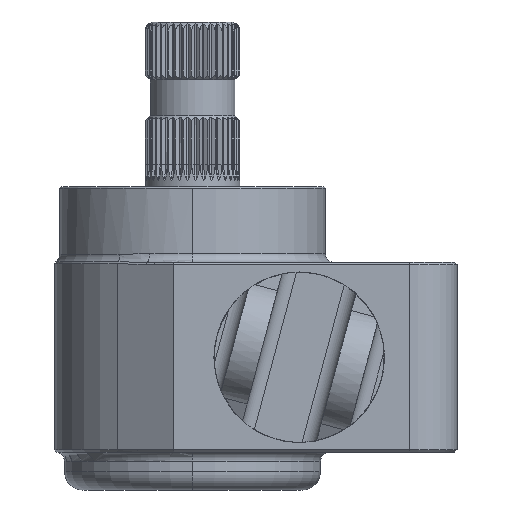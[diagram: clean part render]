
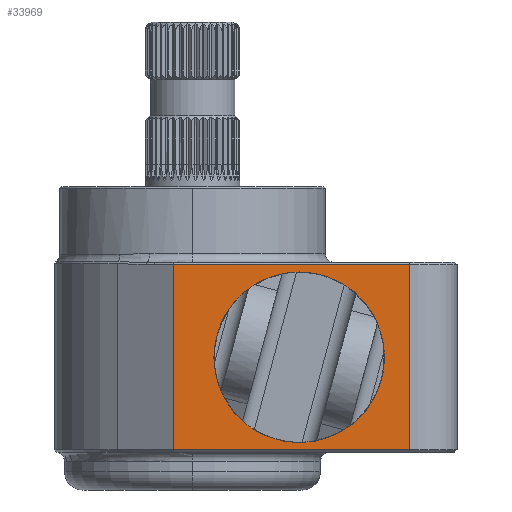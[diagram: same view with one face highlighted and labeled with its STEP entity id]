
A CAD part, left-side view. The second image highlights one B-rep face of the part: STEP entity #33969.
In plain terms, the highlighted planar face has unit normal (-1, 0, 0).
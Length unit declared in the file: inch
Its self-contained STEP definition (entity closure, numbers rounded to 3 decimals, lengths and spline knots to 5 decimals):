
#87 = EDGE_CURVE ( 'NONE', #27438, #25762, #12227, .T. ) ;
#365 = LINE ( 'NONE', #11179, #16177 ) ;
#893 = DIRECTION ( 'NONE',  ( 0., 1., 0. ) ) ;
#1001 = ORIENTED_EDGE ( 'NONE', *, *, #26330, .F. ) ;
#2152 = CARTESIAN_POINT ( 'NONE',  ( -1., -0.70375, 0.625 ) ) ;
#4114 = ORIENTED_EDGE ( 'NONE', *, *, #16411, .F. ) ;
#5031 = EDGE_CURVE ( 'NONE', #28939, #32936, #13499, .T. ) ;
#5422 = FACE_BOUND ( 'NONE', #32364, .T. ) ;
#7713 = LINE ( 'NONE', #16414, #27472 ) ;
#7803 = VECTOR ( 'NONE', #26574, 39.37008 ) ;
#7943 = CARTESIAN_POINT ( 'NONE',  ( -1., 0.125, 1.25 ) ) ;
#8041 = FACE_OUTER_BOUND ( 'NONE', #22828, .T. ) ;
#8155 = CARTESIAN_POINT ( 'NONE',  ( -1., -1.43125, 1.235 ) ) ;
#8173 = CARTESIAN_POINT ( 'NONE',  ( -1., 0.125, 0.015 ) ) ;
#8703 = ORIENTED_EDGE ( 'NONE', *, *, #87, .F. ) ;
#9806 = DIRECTION ( 'NONE',  ( 0., 0., -1. ) ) ;
#10097 = DIRECTION ( 'NONE',  ( -1., 0., 0. ) ) ;
#11179 = CARTESIAN_POINT ( 'NONE',  ( -1., 0.125, 1.235 ) ) ;
#11350 = DIRECTION ( 'NONE',  ( 1., 0., 0. ) ) ;
#12227 = CIRCLE ( 'NONE', #27792, 0.5625 ) ;
#12244 = DIRECTION ( 'NONE',  ( -1., 0., 0. ) ) ;
#13440 = PLANE ( 'NONE',  #20636 ) ;
#13499 = LINE ( 'NONE', #7943, #7803 ) ;
#15490 = CARTESIAN_POINT ( 'NONE',  ( -1., -0.70375, 0.0625 ) ) ;
#16015 = CIRCLE ( 'NONE', #27118, 0.5625 ) ;
#16177 = VECTOR ( 'NONE', #893, 39.37008 ) ;
#16411 = EDGE_CURVE ( 'NONE', #31807, #26081, #7713, .T. ) ;
#16414 = CARTESIAN_POINT ( 'NONE',  ( -1., -1.43125, 1.25 ) ) ;
#16749 = DIRECTION ( 'NONE',  ( 0., 0., -1. ) ) ;
#17401 = ORIENTED_EDGE ( 'NONE', *, *, #23787, .T. ) ;
#18448 = CARTESIAN_POINT ( 'NONE',  ( -1., -0.70375, 1.1875 ) ) ;
#20636 = AXIS2_PLACEMENT_3D ( 'NONE', #29460, #11350, #16749 ) ;
#20714 = DIRECTION ( 'NONE',  ( 0., 0., -1. ) ) ;
#21040 = VECTOR ( 'NONE', #21759, 39.37008 ) ;
#21759 = DIRECTION ( 'NONE',  ( 0., -1., 0. ) ) ;
#22092 = CARTESIAN_POINT ( 'NONE',  ( -1., 0.125, 1.235 ) ) ;
#22156 = ORIENTED_EDGE ( 'NONE', *, *, #5031, .T. ) ;
#22828 = EDGE_LOOP ( 'NONE', ( #22156, #17401, #4114, #34326 ) ) ;
#23787 = EDGE_CURVE ( 'NONE', #32936, #26081, #24031, .T. ) ;
#24031 = LINE ( 'NONE', #8173, #21040 ) ;
#24702 = CARTESIAN_POINT ( 'NONE',  ( -1., 0.125, 0.015 ) ) ;
#25762 = VERTEX_POINT ( 'NONE', #18448 ) ;
#26081 = VERTEX_POINT ( 'NONE', #30631 ) ;
#26330 = EDGE_CURVE ( 'NONE', #25762, #27438, #16015, .T. ) ;
#26574 = DIRECTION ( 'NONE',  ( 0., 0., -1. ) ) ;
#27118 = AXIS2_PLACEMENT_3D ( 'NONE', #2152, #12244, #9806 ) ;
#27438 = VERTEX_POINT ( 'NONE', #15490 ) ;
#27472 = VECTOR ( 'NONE', #29637, 39.37008 ) ;
#27792 = AXIS2_PLACEMENT_3D ( 'NONE', #30830, #10097, #20714 ) ;
#28939 = VERTEX_POINT ( 'NONE', #22092 ) ;
#29460 = CARTESIAN_POINT ( 'NONE',  ( -1., 0.125, 1.25 ) ) ;
#29637 = DIRECTION ( 'NONE',  ( 0., 0., -1. ) ) ;
#30631 = CARTESIAN_POINT ( 'NONE',  ( -1., -1.43125, 0.015 ) ) ;
#30830 = CARTESIAN_POINT ( 'NONE',  ( -1., -0.70375, 0.625 ) ) ;
#31807 = VERTEX_POINT ( 'NONE', #8155 ) ;
#32364 = EDGE_LOOP ( 'NONE', ( #1001, #8703 ) ) ;
#32936 = VERTEX_POINT ( 'NONE', #24702 ) ;
#33950 = EDGE_CURVE ( 'NONE', #31807, #28939, #365, .T. ) ;
#33969 = ADVANCED_FACE ( 'NONE', ( #5422, #8041 ), #13440, .F. ) ;
#34326 = ORIENTED_EDGE ( 'NONE', *, *, #33950, .T. ) ;
